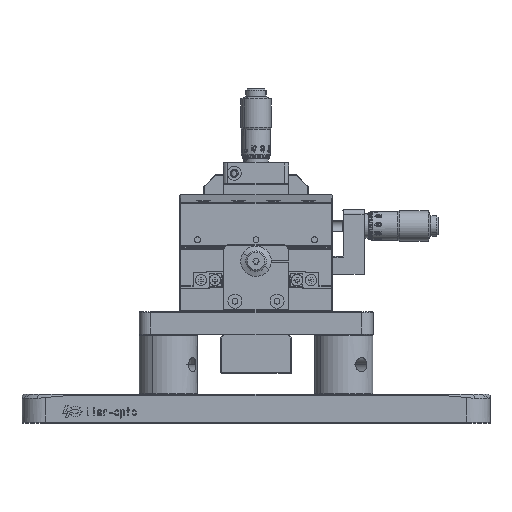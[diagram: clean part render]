
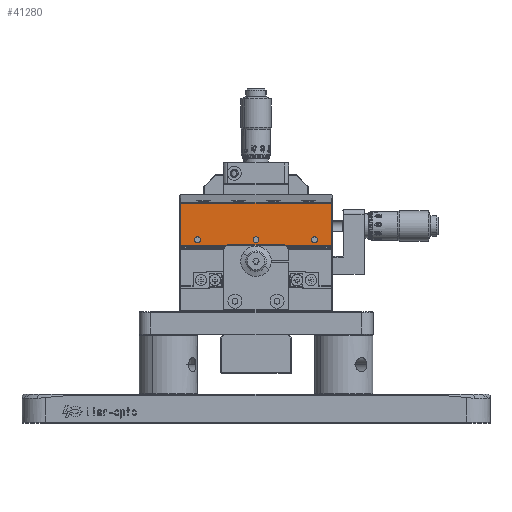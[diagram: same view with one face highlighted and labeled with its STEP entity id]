
A CAD part, top view. The second image highlights one B-rep face of the part: STEP entity #41280.
In plain terms, the highlighted planar face has unit normal (0, 0, 1).
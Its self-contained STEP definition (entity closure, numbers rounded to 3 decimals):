
#1548 = CARTESIAN_POINT ( 'NONE',  ( -86.39, 50.06, 1018.615 ) ) ;
#1952 = VERTEX_POINT ( 'NONE', #23851 ) ;
#2304 = CARTESIAN_POINT ( 'NONE',  ( -143.59, 34.458, 1018.615 ) ) ;
#3118 = ORIENTED_EDGE ( 'NONE', *, *, #50814, .F. ) ;
#3303 = CARTESIAN_POINT ( 'NONE',  ( -117.34, 34.458, 1018.615 ) ) ;
#3794 = VECTOR ( 'NONE', #67004, 1000. ) ;
#4163 = CARTESIAN_POINT ( 'NONE',  ( -118.59, 34.458, 1018.615 ) ) ;
#4276 = EDGE_LOOP ( 'NONE', ( #60339, #72731, #40783, #48170 ) ) ;
#4389 = ORIENTED_EDGE ( 'NONE', *, *, #76108, .F. ) ;
#5929 = FACE_BOUND ( 'NONE', #33382, .T. ) ;
#7345 = FACE_OUTER_BOUND ( 'NONE', #4276, .T. ) ;
#7454 = EDGE_LOOP ( 'NONE', ( #12253, #61125 ) ) ;
#8675 = CARTESIAN_POINT ( 'NONE',  ( -151.09, 31.958, 1018.615 ) ) ;
#11815 = VERTEX_POINT ( 'NONE', #26543 ) ;
#11853 = ORIENTED_EDGE ( 'NONE', *, *, #19234, .F. ) ;
#12253 = ORIENTED_EDGE ( 'NONE', *, *, #34439, .F. ) ;
#12335 = CARTESIAN_POINT ( 'NONE',  ( -92.34, 34.458, 1018.615 ) ) ;
#12857 = CIRCLE ( 'NONE', #46483, 1.25 ) ;
#13677 = VERTEX_POINT ( 'NONE', #12335 ) ;
#14368 = AXIS2_PLACEMENT_3D ( 'NONE', #87904, #21474, #65887 ) ;
#15643 = CARTESIAN_POINT ( 'NONE',  ( -93.59, 34.458, 1018.615 ) ) ;
#15829 = LINE ( 'NONE', #8675, #3794 ) ;
#18226 = ORIENTED_EDGE ( 'NONE', *, *, #70421, .F. ) ;
#18999 = EDGE_CURVE ( 'NONE', #11815, #87347, #63112, .T. ) ;
#19234 = EDGE_CURVE ( 'NONE', #34353, #41038, #49357, .T. ) ;
#21474 = DIRECTION ( 'NONE',  ( 0., 0., 1. ) ) ;
#22223 = CARTESIAN_POINT ( 'NONE',  ( -94.84, 34.458, 1018.615 ) ) ;
#23851 = CARTESIAN_POINT ( 'NONE',  ( -150.79, 50.06, 1018.615 ) ) ;
#26543 = CARTESIAN_POINT ( 'NONE',  ( -144.84, 34.458, 1018.615 ) ) ;
#26769 = CARTESIAN_POINT ( 'NONE',  ( -118.59, 34.458, 1018.615 ) ) ;
#29012 = CARTESIAN_POINT ( 'NONE',  ( -150.79, 47.758, 1018.615 ) ) ;
#29326 = DIRECTION ( 'NONE',  ( 0., 0., -1. ) ) ;
#31225 = CIRCLE ( 'NONE', #14368, 1.25 ) ;
#32319 = EDGE_CURVE ( 'NONE', #53958, #82834, #15829, .T. ) ;
#33382 = EDGE_LOOP ( 'NONE', ( #18226, #3118 ) ) ;
#33477 = DIRECTION ( 'NONE',  ( 1., 0., 0. ) ) ;
#33865 = LINE ( 'NONE', #77413, #45290 ) ;
#34353 = VERTEX_POINT ( 'NONE', #3303 ) ;
#34439 = EDGE_CURVE ( 'NONE', #87347, #11815, #46503, .T. ) ;
#35732 = DIRECTION ( 'NONE',  ( 1., 0., 0. ) ) ;
#36524 = PLANE ( 'NONE',  #93676 ) ;
#37759 = AXIS2_PLACEMENT_3D ( 'NONE', #26769, #62156, #33477 ) ;
#40783 = ORIENTED_EDGE ( 'NONE', *, *, #32319, .T. ) ;
#41038 = VERTEX_POINT ( 'NONE', #66765 ) ;
#41280 = ADVANCED_FACE ( 'NONE', ( #42759, #49937, #5929, #7345 ), #36524, .F. ) ;
#41925 = DIRECTION ( 'NONE',  ( 1., 0., 0. ) ) ;
#42458 = LINE ( 'NONE', #29012, #77096 ) ;
#42759 = FACE_BOUND ( 'NONE', #7454, .T. ) ;
#43054 = EDGE_CURVE ( 'NONE', #82834, #92615, #72765, .T. ) ;
#45290 = VECTOR ( 'NONE', #62559, 1000. ) ;
#46483 = AXIS2_PLACEMENT_3D ( 'NONE', #15643, #81127, #35732 ) ;
#46503 = CIRCLE ( 'NONE', #60182, 1.25 ) ;
#47741 = EDGE_LOOP ( 'NONE', ( #11853, #4389 ) ) ;
#48170 = ORIENTED_EDGE ( 'NONE', *, *, #43054, .T. ) ;
#49087 = DIRECTION ( 'NONE',  ( 0., 0., 1. ) ) ;
#49357 = CIRCLE ( 'NONE', #61584, 1.25 ) ;
#49460 = CARTESIAN_POINT ( 'NONE',  ( -151.09, 47.758, 1018.615 ) ) ;
#49722 = VERTEX_POINT ( 'NONE', #22223 ) ;
#49937 = FACE_BOUND ( 'NONE', #47741, .T. ) ;
#50814 = EDGE_CURVE ( 'NONE', #49722, #13677, #12857, .T. ) ;
#51532 = CARTESIAN_POINT ( 'NONE',  ( -150.79, 31.958, 1018.615 ) ) ;
#52059 = CARTESIAN_POINT ( 'NONE',  ( -142.34, 34.458, 1018.615 ) ) ;
#53958 = VERTEX_POINT ( 'NONE', #51532 ) ;
#55506 = AXIS2_PLACEMENT_3D ( 'NONE', #2304, #89813, #61101 ) ;
#59821 = DIRECTION ( 'NONE',  ( 0., 1., 0. ) ) ;
#60182 = AXIS2_PLACEMENT_3D ( 'NONE', #91292, #84067, #93457 ) ;
#60339 = ORIENTED_EDGE ( 'NONE', *, *, #73128, .T. ) ;
#60616 = CIRCLE ( 'NONE', #37759, 1.25 ) ;
#61101 = DIRECTION ( 'NONE',  ( 1., 0., 0. ) ) ;
#61125 = ORIENTED_EDGE ( 'NONE', *, *, #18999, .F. ) ;
#61584 = AXIS2_PLACEMENT_3D ( 'NONE', #4163, #49087, #41925 ) ;
#62156 = DIRECTION ( 'NONE',  ( 0., 0., 1. ) ) ;
#62559 = DIRECTION ( 'NONE',  ( -1., 0., 0. ) ) ;
#63112 = CIRCLE ( 'NONE', #55506, 1.25 ) ;
#63954 = DIRECTION ( 'NONE',  ( 0., -1., 0. ) ) ;
#64244 = DIRECTION ( 'NONE',  ( -1., 0., 0. ) ) ;
#65887 = DIRECTION ( 'NONE',  ( 1., 0., 0. ) ) ;
#66765 = CARTESIAN_POINT ( 'NONE',  ( -119.84, 34.458, 1018.615 ) ) ;
#67004 = DIRECTION ( 'NONE',  ( 1., 0., 0. ) ) ;
#70421 = EDGE_CURVE ( 'NONE', #13677, #49722, #31225, .T. ) ;
#72731 = ORIENTED_EDGE ( 'NONE', *, *, #91901, .T. ) ;
#72765 = LINE ( 'NONE', #79905, #81708 ) ;
#73128 = EDGE_CURVE ( 'NONE', #92615, #1952, #33865, .T. ) ;
#76108 = EDGE_CURVE ( 'NONE', #41038, #34353, #60616, .T. ) ;
#77096 = VECTOR ( 'NONE', #63954, 1000. ) ;
#77413 = CARTESIAN_POINT ( 'NONE',  ( -151.09, 50.06, 1018.615 ) ) ;
#77877 = CARTESIAN_POINT ( 'NONE',  ( -86.39, 31.958, 1018.615 ) ) ;
#79905 = CARTESIAN_POINT ( 'NONE',  ( -86.39, 50.39, 1018.615 ) ) ;
#81127 = DIRECTION ( 'NONE',  ( 0., 0., 1. ) ) ;
#81708 = VECTOR ( 'NONE', #59821, 1000. ) ;
#82834 = VERTEX_POINT ( 'NONE', #77877 ) ;
#84067 = DIRECTION ( 'NONE',  ( 0., 0., 1. ) ) ;
#87347 = VERTEX_POINT ( 'NONE', #52059 ) ;
#87904 = CARTESIAN_POINT ( 'NONE',  ( -93.59, 34.458, 1018.615 ) ) ;
#89813 = DIRECTION ( 'NONE',  ( 0., 0., 1. ) ) ;
#91292 = CARTESIAN_POINT ( 'NONE',  ( -143.59, 34.458, 1018.615 ) ) ;
#91901 = EDGE_CURVE ( 'NONE', #1952, #53958, #42458, .T. ) ;
#92615 = VERTEX_POINT ( 'NONE', #1548 ) ;
#93457 = DIRECTION ( 'NONE',  ( 1., 0., 0. ) ) ;
#93676 = AXIS2_PLACEMENT_3D ( 'NONE', #49460, #29326, #64244 ) ;
